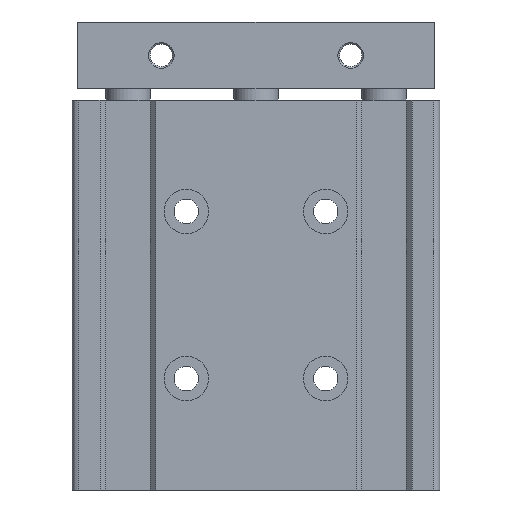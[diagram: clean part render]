
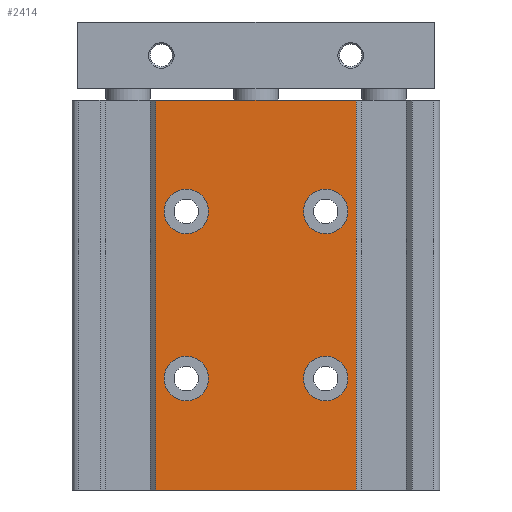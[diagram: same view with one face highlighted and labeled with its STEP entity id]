
A CAD part, left-side view. The second image highlights one B-rep face of the part: STEP entity #2414.
In plain terms, the highlighted planar face has unit normal (-1, 0, 0).
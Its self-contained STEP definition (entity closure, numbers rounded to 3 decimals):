
#84=CARTESIAN_POINT('',(-13.5,-12.5,-18.));
#85=VERTEX_POINT('',#84);
#86=CARTESIAN_POINT('',(-13.5,-12.5,-22.0));
#87=DIRECTION('',(1.0,0.0,0.0));
#88=DIRECTION('',(0.0,0.0,-1.0));
#89=AXIS2_PLACEMENT_3D('',#86,#87,#88);
#90=CIRCLE('',#89,4.0);
#91=EDGE_CURVE('',#85,#85,#90,.T.);
#132=CARTESIAN_POINT('',(-13.5,12.5,-48.0));
#133=VERTEX_POINT('',#132);
#134=CARTESIAN_POINT('',(-13.5,12.5,-52.0));
#135=DIRECTION('',(1.0,0.0,0.0));
#136=DIRECTION('',(0.0,0.0,-1.0));
#137=AXIS2_PLACEMENT_3D('',#134,#135,#136);
#138=CIRCLE('',#137,4.0);
#139=EDGE_CURVE('',#133,#133,#138,.T.);
#180=CARTESIAN_POINT('',(-13.5,12.5,-18.));
#181=VERTEX_POINT('',#180);
#182=CARTESIAN_POINT('',(-13.5,12.5,-22.0));
#183=DIRECTION('',(1.0,0.0,0.0));
#184=DIRECTION('',(0.0,0.0,-1.0));
#185=AXIS2_PLACEMENT_3D('',#182,#183,#184);
#186=CIRCLE('',#185,4.0);
#187=EDGE_CURVE('',#181,#181,#186,.T.);
#228=CARTESIAN_POINT('',(-13.5,-12.5,-48.0));
#229=VERTEX_POINT('',#228);
#230=CARTESIAN_POINT('',(-13.5,-12.5,-52.0));
#231=DIRECTION('',(1.0,0.0,0.0));
#232=DIRECTION('',(0.0,0.0,-1.0));
#233=AXIS2_PLACEMENT_3D('',#230,#231,#232);
#234=CIRCLE('',#233,4.0);
#235=EDGE_CURVE('',#229,#229,#234,.T.);
#1061=CARTESIAN_POINT('',(-13.5,-18.,-72.0));
#1062=VERTEX_POINT('',#1061);
#1069=CARTESIAN_POINT('',(-13.5,18.,-72.0));
#1070=VERTEX_POINT('',#1069);
#1071=CARTESIAN_POINT('',(-13.5,18.,-72.0));
#1072=DIRECTION('',(0.0,-1.0,0.0));
#1073=VECTOR('',#1072,36.);
#1074=LINE('',#1071,#1073);
#1075=EDGE_CURVE('',#1070,#1062,#1074,.T.);
#2084=CARTESIAN_POINT('',(-13.5,-18.,-2.0));
#2085=VERTEX_POINT('',#2084);
#2092=CARTESIAN_POINT('',(-13.5,-18.,-72.0));
#2093=DIRECTION('',(0.0,0.0,1.0));
#2094=VECTOR('',#2093,70.0);
#2095=LINE('',#2092,#2094);
#2096=EDGE_CURVE('',#1062,#2085,#2095,.T.);
#2186=CARTESIAN_POINT('',(-13.5,18.,-2.0));
#2187=VERTEX_POINT('',#2186);
#2188=CARTESIAN_POINT('',(-13.5,18.,-2.0));
#2189=DIRECTION('',(0.0,0.0,-1.0));
#2190=VECTOR('',#2189,70.0);
#2191=LINE('',#2188,#2190);
#2192=EDGE_CURVE('',#2187,#1070,#2191,.T.);
#2386=CARTESIAN_POINT('',(-13.5,31.8,-2.0));
#2387=DIRECTION('',(-1.0,0.0,0.0));
#2388=DIRECTION('',(0.0,0.0,1.0));
#2389=AXIS2_PLACEMENT_3D('',#2386,#2387,#2388);
#2390=PLANE('',#2389);
#2391=ORIENTED_EDGE('',*,*,#2096,.T.);
#2392=CARTESIAN_POINT('',(-13.5,-18.,-2.0));
#2393=DIRECTION('',(0.0,1.0,0.0));
#2394=VECTOR('',#2393,36.);
#2395=LINE('',#2392,#2394);
#2396=EDGE_CURVE('',#2085,#2187,#2395,.T.);
#2397=ORIENTED_EDGE('',*,*,#2396,.T.);
#2398=ORIENTED_EDGE('',*,*,#2192,.T.);
#2399=ORIENTED_EDGE('',*,*,#1075,.T.);
#2400=EDGE_LOOP('',(#2391,#2397,#2398,#2399));
#2401=FACE_OUTER_BOUND('',#2400,.T.);
#2402=ORIENTED_EDGE('',*,*,#91,.T.);
#2403=EDGE_LOOP('',(#2402));
#2404=FACE_BOUND('',#2403,.T.);
#2405=ORIENTED_EDGE('',*,*,#139,.T.);
#2406=EDGE_LOOP('',(#2405));
#2407=FACE_BOUND('',#2406,.T.);
#2408=ORIENTED_EDGE('',*,*,#187,.T.);
#2409=EDGE_LOOP('',(#2408));
#2410=FACE_BOUND('',#2409,.T.);
#2411=ORIENTED_EDGE('',*,*,#235,.T.);
#2412=EDGE_LOOP('',(#2411));
#2413=FACE_BOUND('',#2412,.T.);
#2414=ADVANCED_FACE('',(#2401,#2404,#2407,#2410,#2413),#2390,.T.);
